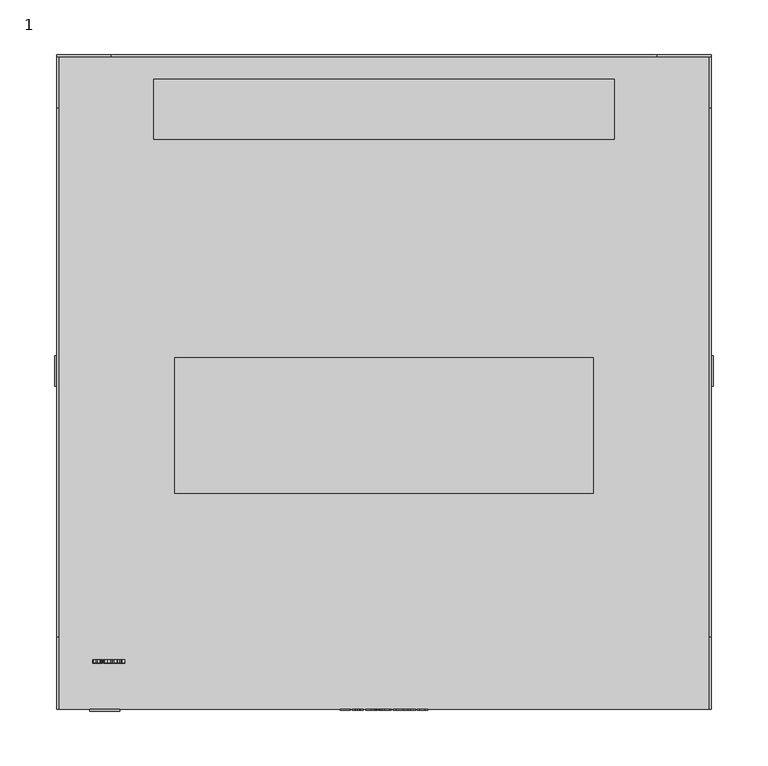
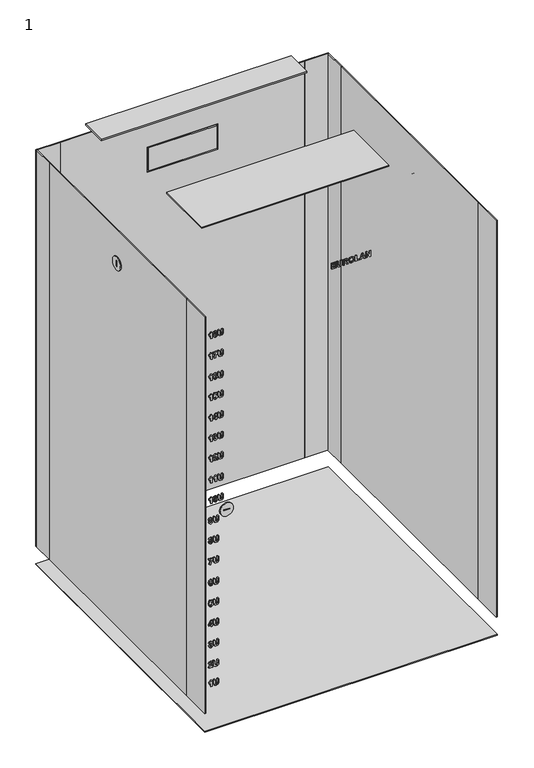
"""IFC4 building model written with IfcOpenShell, lengths in millimetres: proxy geometry, 1 : 18U 600мм металлическая дверь."""

from ifc_helpers import new_model, si_unit, point, frame, frame_2d, origin, origin_with_axes, place, context, project, spatial, polyline, circle_curve, trimmed, segment, composite_curve, outline, extrude, source, transform, mapped, element, save


def proxy_1_363f3566(model_context):
    return source(origin(), model_context, "Body", "SweptSolid", [
        extrude(outline(polyline([(914.0, -40.3245382), (914.0, -30.9964522), (916.1376864, -30.9964522), (916.1376864, -37.9925167), (919.2470483, -37.9925167), (919.2470483, -31.5794576), (921.3847347, -31.5794576), (921.3847347, -37.9925167), (924.1054264, -37.9925167), (924.1054264, -31.1907874), (926.2431128, -31.1907874), (926.2431128, -40.3245382), (914.0, -40.3245382)])), frame((0.0, -301.0, 0.0), z_axis=(0.0, 1.0, 0.0), x_axis=(0.0, 0.0, 1.0)), (0.0, 0.0, 1.0), 1.0),
        extrude(outline(polyline([(926.2431128, -29.053101), (919.7207402, -29.053101), (916.6174512, -28.8071456), (915.2601418, -28.1026808), (914.2095176, -26.6482039), (913.8056649, -23.9487675), (914.1761162, -21.5575346), (915.173602, -20.0954664), (916.7085458, -19.3454543), (919.8209443, -19.1420097), (926.2431128, -19.1420097), (926.2431128, -21.4740312), (919.4960402, -21.4740312), (917.4236383, -21.5924541), (916.3714958, -22.2923642), (915.9433512, -24.0216432), (916.3973059, -25.7979877), (917.5982363, -26.6208755), (919.6387551, -26.7210795), (926.2431128, -26.7210795), (926.2431128, -29.053101)])), frame((0.0, -301.0, 0.0), z_axis=(0.0, 1.0, 0.0), x_axis=(0.0, 0.0, 1.0)), (0.0, 0.0, 1.0), 1.0),
        extrude(outline(polyline([(914.0, -16.8099882), (914.0, -14.4779667), (919.0527132, -13.9435451), (918.9251808, -12.6120459), (918.4560437, -11.8164865), (916.7966039, -10.4242575), (914.0, -8.6509495), (914.0, -5.9272213), (916.3745323, -7.424209), (918.3512849, -8.7238252), (919.3715443, -9.9475291), (920.5071902, -7.6625732), (922.7936644, -6.8988969), (924.7339791, -7.4272455), (925.9121358, -8.8361752), (926.2431128, -11.6601074), (926.2431128, -16.8099882), (914.0, -16.8099882)]), holes=[polyline([(921.1903996, -14.4779667), (924.1054264, -14.4779667), (924.1054264, -12.4495939), (924.0659521, -10.5548264), (923.6150339, -9.5770778), (922.6782779, -9.2309184), (921.817434, -9.4935744), (921.3315962, -10.2223312), (921.1903996, -12.5558709), (921.1903996, -14.4779667)])]), frame((0.0, -301.0, 0.0), z_axis=(0.0, 1.0, 0.0), x_axis=(0.0, 0.0, 1.0)), (0.0, 0.0, 1.0), 1.0),
        extrude(outline(polyline([(920.0456442, -4.9555457), (915.4681411, -3.3735363), (913.8056649, 0.8896905), (915.4757323, 5.1225524), (920.106374, 6.7045618), (924.7628257, 5.1104065), (926.4374479, 0.8593256), (925.9546466, -1.7338337), (924.8539203, -3.2869964), (923.1792981, -4.4059416), (920.0456442, -4.9555457)]), holes=[polyline([(920.1306659, -2.6235242), (923.2612832, -1.6579215), (924.2997616, 0.886654), (923.2734292, 3.4190836), (920.1640672, 4.3725403), (916.9985302, 3.3932735), (915.9433512, 0.886654), (917.0061214, -1.6321114), (920.1306659, -2.6235242)])]), frame((0.0, -301.0, 0.0), z_axis=(0.0, 1.0, 0.0), x_axis=(0.0, 0.0, 1.0)), (0.0, 0.0, 1.0), 1.0),
        extrude(outline(polyline([(914.0, 8.647913), (914.0, 17.1986585), (916.1376864, 17.1986585), (916.1376864, 10.9799345), (926.2431128, 10.9799345), (926.2431128, 8.647913), (914.0, 8.647913)])), frame((0.0, -301.0, 0.0), z_axis=(0.0, 1.0, 0.0), x_axis=(0.0, 0.0, 1.0)), (0.0, 0.0, 1.0), 1.0),
        extrude(outline(polyline([(914.0, 29.2474361), (926.2431128, 24.7352175), (926.2431128, 22.2513717), (914.0, 17.7816638), (914.0, 20.2655096), (916.7206917, 21.2128934), (916.7206917, 25.837462), (914.0, 26.7969917), (914.0, 29.2474361)]), holes=[polyline([(918.8583781, 25.0904864), (918.8583781, 21.959869), (923.3280859, 23.51455), (918.8583781, 25.0904864)])]), frame((0.0, -301.0, 0.0), z_axis=(0.0, 1.0, 0.0), x_axis=(0.0, 0.0, 1.0)), (0.0, 0.0, 1.0), 1.0),
        extrude(outline(polyline([(914.0, 30.4134469), (914.0, 32.7454684), (922.1195644, 32.7454684), (914.0, 37.8042546), (914.0, 40.3245382), (926.2431128, 40.3245382), (926.2431128, 37.9925167), (918.002089, 37.9925167), (926.2431128, 32.8578184), (926.2431128, 30.4134469), (914.0, 30.4134469)])), frame((0.0, -301.0, 0.0), z_axis=(0.0, 1.0, 0.0), x_axis=(0.0, 0.0, 1.0)), (0.0, 0.0, 1.0), 1.0),
        extrude(outline(composite_curve([segment(trimmed(circle_curve(frame_2d((9.997621, 829.4611412)), 14.0), [point((-4.002379, 829.4611412))], [point((23.997621, 829.4611412))], False, "CARTESIAN"), True, "CONTINUOUS"), segment(trimmed(circle_curve(frame_2d((9.997621, 829.4611412)), 14.0), [point((23.997621, 829.4611412))], [point((-4.002379, 829.4611412))], False, "CARTESIAN"), True, "CONTINUOUS")], self_intersect=False), holes=[polyline([(11.0, 835.5), (9.0, 835.5), (9.0, 823.5), (11.0, 823.5), (11.0, 835.5)])]), frame((-302.0, 0.0, 0.0), z_axis=(1.0, 0.0, 0.0), x_axis=(0.0, 1.0, 0.0)), (0.0, 0.0, 1.0), 2.0),
        extrude(outline(composite_curve([segment(trimmed(circle_curve(frame_2d((9.997621, 829.4611412)), 14.0), [point((-4.002379, 829.4611412))], [point((23.997621, 829.4611412))], False, "CARTESIAN"), True, "CONTINUOUS"), segment(trimmed(circle_curve(frame_2d((9.997621, 829.4611412)), 14.0), [point((23.997621, 829.4611412))], [point((-4.002379, 829.4611412))], False, "CARTESIAN"), True, "CONTINUOUS")], self_intersect=False), holes=[polyline([(11.0, 835.5), (9.0, 835.5), (9.0, 823.5), (11.0, 823.5), (11.0, 835.5)])]), frame((300.0, 0.0, 0.0), z_axis=(1.0, 0.0, 0.0), x_axis=(0.0, 1.0, 0.0)), (0.0, 0.0, 1.0), 2.0),
        extrude(outline(composite_curve([segment(trimmed(circle_curve(frame_2d((469.0, -256.0)), 13.7647373), [point((469.0, -242.2352627))], [point((469.0, -269.7647373))], False, "CARTESIAN"), True, "CONTINUOUS"), segment(trimmed(circle_curve(frame_2d((469.0, -256.0)), 13.7647373), [point((469.0, -269.7647373))], [point((469.0, -242.2352627))], False, "CARTESIAN"), True, "CONTINUOUS")], self_intersect=False), holes=[polyline([(470.0, -250.0), (468.0, -250.0), (468.0, -262.0), (470.0, -262.0), (470.0, -250.0)])]), frame((0.0, -302.0, 0.0), z_axis=(0.0, 1.0, 0.0), x_axis=(0.0, 0.0, 1.0)), (0.0, 0.0, 1.0), 2.0),
        extrude(outline(polyline([(300.0, 300.0), (300.0, -300.0), (-300.0, -300.0), (-300.0, 300.0), (300.0, 300.0)])), origin_with_axes(), (0.0, 0.0, 1.0), 2.0),
        extrude(outline(polyline([(211.0, 277.5), (211.0, 222.5), (-211.0, 222.5), (-211.0, 277.5), (211.0, 277.5)])), frame((0.0, 0.0, 934.9795778), z_axis=(0.0, 0.0, 1.0), x_axis=(1.0, 0.0, 0.0)), (0.0, 0.0, 1.0), 3.0204222),
        extrude(outline(polyline([(192.0, 22.0), (192.0, -102.0), (-192.0, -102.0), (-192.0, 22.0), (192.0, 22.0)])), frame((0.0, 0.0, 934.9795778), z_axis=(0.0, 0.0, 1.0), x_axis=(1.0, 0.0, 0.0)), (0.0, 0.0, 1.0), 3.0204222),
        extrude(outline(polyline([(-69.5, 300.0), (69.5, 300.0), (69.5, 298.0), (-69.5, 298.0), (-69.5, 300.0)])), frame((0.0, 0.0, 775.0), z_axis=(0.0, 0.0, 1.0), x_axis=(1.0, 0.0, 0.0)), (0.0, 0.0, 1.0), 49.0),
        extrude(outline(polyline([(900.0, -250.0), (40.0, -250.0), (40.0, 250.0), (900.0, 250.0), (900.0, -250.0)]), holes=[polyline([(827.0, -72.5), (827.0, 72.5), (772.0, 72.5), (772.0, -72.5), (827.0, -72.5)])]), frame((0.0, 298.0, 0.0), z_axis=(0.0, 1.0, 0.0), x_axis=(0.0, 0.0, 1.0)), (0.0, 0.0, 1.0), 2.0),
        extrude(outline(polyline([(-300.0, 300.0), (-250.0, 300.0), (-250.0, 298.0), (-300.0, 298.0), (-300.0, 300.0)])), frame((0.0, 0.0, 40.0), z_axis=(0.0, 0.0, 1.0), x_axis=(1.0, 0.0, 0.0)), (0.0, 0.0, 1.0), 860.0),
        extrude(outline(polyline([(250.0, 300.0), (300.0, 300.0), (300.0, 298.0), (250.0, 298.0), (250.0, 300.0)])), frame((0.0, 0.0, 40.0), z_axis=(0.0, 0.0, 1.0), x_axis=(1.0, 0.0, 0.0)), (0.0, 0.0, 1.0), 860.0),
        extrude(outline(polyline([(-298.0, 250.8155315), (-298.0, -233.7095641), (-300.0, -233.7095641), (-300.0, 250.8155315), (-298.0, 250.8155315)])), frame((0.0, 0.0, 40.0), z_axis=(0.0, 0.0, 1.0), x_axis=(1.0, 0.0, 0.0)), (0.0, 0.0, 1.0), 860.0),
        extrude(outline(polyline([(-298.0, -233.7095641), (-298.0, -300.0), (-300.0, -300.0), (-300.0, -233.7095641), (-298.0, -233.7095641)])), frame((0.0, 0.0, 40.0), z_axis=(0.0, 0.0, 1.0), x_axis=(1.0, 0.0, 0.0)), (0.0, 0.0, 1.0), 860.0),
        extrude(outline(polyline([(-298.0, 300.0), (-298.0, 250.8155315), (-300.0, 250.8155315), (-300.0, 300.0), (-298.0, 300.0)])), frame((0.0, 0.0, 40.0), z_axis=(0.0, 0.0, 1.0), x_axis=(1.0, 0.0, 0.0)), (0.0, 0.0, 1.0), 860.0),
        extrude(outline(polyline([(300.0, 250.8155315), (300.0, -233.7095641), (298.0, -233.7095641), (298.0, 250.8155315), (300.0, 250.8155315)])), frame((0.0, 0.0, 40.0), z_axis=(0.0, 0.0, 1.0), x_axis=(1.0, 0.0, 0.0)), (0.0, 0.0, 1.0), 860.0),
        extrude(outline(polyline([(300.0, 300.0), (300.0, 250.8155315), (298.0, 250.8155315), (298.0, 300.0), (300.0, 300.0)])), frame((0.0, 0.0, 40.0), z_axis=(0.0, 0.0, 1.0), x_axis=(1.0, 0.0, 0.0)), (0.0, 0.0, 1.0), 860.0),
        extrude(outline(polyline([(300.0, -233.7095641), (300.0, -300.0), (298.0, -300.0), (298.0, -233.7095641), (300.0, -233.7095641)])), frame((0.0, 0.0, 40.0), z_axis=(0.0, 0.0, 1.0), x_axis=(1.0, 0.0, 0.0)), (0.0, 0.0, 1.0), 860.0),
        extrude(outline(polyline([(814.9283299, -260.6030776), (827.1714427, -260.6030776), (827.1714427, -262.4614073), (825.2053178, -263.9037383), (824.0620807, -265.850126), (821.7300592, -265.850126), (823.6794834, -262.9350991), (814.9283299, -262.9350991), (814.9283299, -260.6030776)])), frame((0.0, -257.6777479, 0.0), z_axis=(0.0, 1.0, 0.0), x_axis=(0.0, 0.0, 1.0)), (0.0, 0.0, 1.0), 3.0),
        extrude(outline(polyline([(821.4962498, -255.0584536), (820.2254803, -256.6116164), (818.4172527, -257.1050454), (815.6024299, -255.8388306), (814.7339948, -253.1545767), (815.784619, -250.3761917), (818.5174567, -249.3316405), (820.3120201, -249.8584708), (821.4962498, -251.3964511), (822.508918, -250.0163681), (824.0226064, -249.5259756), (826.280234, -250.4946147), (827.1714427, -253.2183429), (826.280234, -255.9496624), (824.0226064, -256.9107103), (822.5499105, -256.4704198), (821.4962498, -255.0584536)]), holes=[polyline([(823.8798915, -254.5786888), (825.000355, -254.205201), (825.4224266, -253.2031605), (825.0033915, -252.2269302), (823.889001, -251.8579971), (822.7320997, -252.2314849), (822.3130646, -253.2274524), (822.727545, -254.2097557), (823.8798915, -254.5786888)]), polyline([(818.6146243, -254.7730239), (819.94916, -254.3889084), (820.5640485, -253.2213794), (820.0220357, -252.1039525), (818.5872959, -251.6636619), (817.0250237, -252.0963612), (816.4830109, -253.1910146), (817.0462791, -254.3205875), (818.6146243, -254.7730239)])]), frame((0.0, -257.6777479, 0.0), z_axis=(0.0, 1.0, 0.0), x_axis=(0.0, 0.0, 1.0)), (0.0, 0.0, 1.0), 3.0),
        extrude(outline(polyline([(827.1714427, -247.3882892), (820.6490701, -247.3882892), (817.5457811, -247.1423338), (816.1884717, -246.437869), (815.1378475, -244.9833921), (814.7339948, -242.2839557), (815.1044461, -239.8927228), (816.1019319, -238.4306546), (817.6368757, -237.6806425), (820.7492742, -237.4771979), (827.1714427, -237.4771979), (827.1714427, -239.8092194), (820.4243701, -239.8092194), (818.3519682, -239.9276424), (817.2998257, -240.6275524), (816.8716811, -242.3568314), (817.3256358, -244.1331759), (818.5265662, -244.9560637), (820.567085, -245.0562677), (827.1714427, -245.0562677), (827.1714427, -247.3882892)])), frame((0.0, -257.6777479, 0.0), z_axis=(0.0, 1.0, 0.0), x_axis=(0.0, 0.0, 1.0)), (0.0, 0.0, 1.0), 3.0),
        extrude(outline(polyline([(769.9283299, -260.6030776), (782.1714427, -260.6030776), (782.1714427, -262.4614073), (780.2053178, -263.9037383), (779.0620807, -265.850126), (776.7300592, -265.850126), (778.6794834, -262.9350991), (769.9283299, -262.9350991), (769.9283299, -260.6030776)])), frame((0.0, -257.6777479, 0.0), z_axis=(0.0, 1.0, 0.0), x_axis=(0.0, 0.0, 1.0)), (0.0, 0.0, 1.0), 3.0),
        extrude(outline(polyline([(779.6450861, -257.1050454), (779.6450861, -251.9976754), (775.0129262, -254.6804111), (769.9283299, -255.7446995), (769.9283299, -253.4126781), (773.5812229, -252.8873659), (777.440597, -251.3342032), (780.2280915, -249.3316405), (781.9771076, -249.3316405), (781.9771076, -257.1050454), (779.6450861, -257.1050454)])), frame((0.0, -257.6777479, 0.0), z_axis=(0.0, 1.0, 0.0), x_axis=(0.0, 0.0, 1.0)), (0.0, 0.0, 1.0), 3.0),
        extrude(outline(polyline([(782.1714427, -247.3882892), (775.6490701, -247.3882892), (772.5457811, -247.1423338), (771.1884717, -246.437869), (770.1378475, -244.9833921), (769.7339948, -242.2839557), (770.1044461, -239.8927228), (771.1019319, -238.4306546), (772.6368757, -237.6806425), (775.7492742, -237.4771979), (782.1714427, -237.4771979), (782.1714427, -239.8092194), (775.4243701, -239.8092194), (773.3519682, -239.9276424), (772.2998257, -240.6275524), (771.8716811, -242.3568314), (772.3256358, -244.1331759), (773.5265662, -244.9560637), (775.567085, -245.0562677), (782.1714427, -245.0562677), (782.1714427, -247.3882892)])), frame((0.0, -257.6777479, 0.0), z_axis=(0.0, 1.0, 0.0), x_axis=(0.0, 0.0, 1.0)), (0.0, 0.0, 1.0), 3.0),
        extrude(outline(polyline([(723.5967514, -260.6030776), (735.8398642, -260.6030776), (735.8398642, -262.4614073), (733.8737393, -263.9037383), (732.7305022, -265.850126), (730.3984808, -265.850126), (732.347905, -262.9350991), (723.5967514, -262.9350991), (723.5967514, -260.6030776)])), frame((0.0, -257.6777479, 0.0), z_axis=(0.0, 1.0, 0.0), x_axis=(0.0, 0.0, 1.0)), (0.0, 0.0, 1.0), 3.0),
        extrude(outline(polyline([(732.5908239, -249.5259756), (735.007867, -250.6373296), (735.8398642, -252.8387821), (734.3610954, -255.9192975), (729.5330822, -257.1050454), (724.8356378, -255.9693995), (723.4024163, -253.0725916), (724.512252, -250.3792282), (727.4561255, -249.3316405), (730.2770213, -250.3564546), (731.3701564, -252.8205632), (730.3468605, -254.9521766), (733.0569245, -254.3357699), (733.7021779, -253.1393943), (733.3696826, -252.2709592), (732.341832, -251.8579971), (732.5908239, -249.5259756)]), holes=[polyline([(727.5077458, -254.7730239), (728.795216, -254.3251422), (729.23247, -253.2304889), (728.7754788, -252.1115437), (727.3346661, -251.6636619), (725.9591378, -252.0796606), (725.5401027, -253.1181389), (726.0517506, -254.2689672), (727.5077458, -254.7730239)])]), frame((0.0, -257.6777479, 0.0), z_axis=(0.0, 1.0, 0.0), x_axis=(0.0, 0.0, 1.0)), (0.0, 0.0, 1.0), 3.0),
        extrude(outline(polyline([(735.8398642, -247.3882892), (729.3174916, -247.3882892), (726.2142026, -247.1423338), (724.8568932, -246.437869), (723.806269, -244.9833921), (723.4024163, -242.2839557), (723.7728676, -239.8927228), (724.7703534, -238.4306546), (726.3052972, -237.6806425), (729.4176957, -237.4771979), (735.8398642, -237.4771979), (735.8398642, -239.8092194), (729.0927916, -239.8092194), (727.0203897, -239.9276424), (725.9682472, -240.6275524), (725.5401027, -242.3568314), (725.9940574, -244.1331759), (727.1949877, -244.9560637), (729.2355065, -245.0562677), (735.8398642, -245.0562677), (735.8398642, -247.3882892)])), frame((0.0, -257.6777479, 0.0), z_axis=(0.0, 1.0, 0.0), x_axis=(0.0, 0.0, 1.0)), (0.0, 0.0, 1.0), 3.0),
        extrude(outline(polyline([(680.748317, -260.6030776), (692.9914298, -260.6030776), (692.9914298, -262.4614073), (691.0253049, -263.9037383), (689.8820678, -265.850126), (687.5500463, -265.850126), (689.4994705, -262.9350991), (680.748317, -262.9350991), (680.748317, -260.6030776)])), frame((0.0, -257.6777479, 0.0), z_axis=(0.0, 1.0, 0.0), x_axis=(0.0, 0.0, 1.0)), (0.0, 0.0, 1.0), 3.0),
        extrude(outline(polyline([(684.1947289, -257.1050454), (681.5408399, -255.8676772), (680.5539818, -253.194051), (682.1268817, -249.984485), (684.7473694, -249.1373053), (687.6122943, -250.1545282), (688.716057, -252.6323011), (688.2393287, -254.1353618), (690.4650731, -253.6647064), (690.4650731, -249.7203107), (692.7970946, -249.7203107), (692.7970946, -255.5503644), (685.9073072, -256.9107103), (685.606695, -254.8884104), (686.5783707, -253.1819051), (686.1077153, -251.9445369), (684.6957492, -251.4693268), (683.1911702, -251.9809748), (682.6916682, -253.2304889), (683.1623236, -254.3722077), (684.4406843, -254.967359), (684.1947289, -257.1050454)])), frame((0.0, -257.6777479, 0.0), z_axis=(0.0, 1.0, 0.0), x_axis=(0.0, 0.0, 1.0)), (0.0, 0.0, 1.0), 3.0),
        extrude(outline(polyline([(692.9914298, -247.3882892), (686.4690572, -247.3882892), (683.3657682, -247.1423338), (682.0084588, -246.437869), (680.9578345, -244.9833921), (680.5539818, -242.2839557), (680.9244332, -239.8927228), (681.9219189, -238.4306546), (683.4568627, -237.6806425), (686.5692612, -237.4771979), (692.9914298, -237.4771979), (692.9914298, -239.8092194), (686.2443572, -239.8092194), (684.1719553, -239.9276424), (683.1198128, -240.6275524), (682.6916682, -242.3568314), (683.1456229, -244.1331759), (684.3465532, -244.9560637), (686.387072, -245.0562677), (692.9914298, -245.0562677), (692.9914298, -247.3882892)])), frame((0.0, -257.6777479, 0.0), z_axis=(0.0, 1.0, 0.0), x_axis=(0.0, 0.0, 1.0)), (0.0, 0.0, 1.0), 3.0),
        extrude(outline(polyline([(636.0351924, -260.6030776), (648.2783052, -260.6030776), (648.2783052, -262.4614073), (646.3121803, -263.9037383), (645.1689432, -265.850126), (642.8369217, -265.850126), (644.7863459, -262.9350991), (636.0351924, -262.9350991), (636.0351924, -260.6030776)])), frame((0.0, -257.6777479, 0.0), z_axis=(0.0, 1.0, 0.0), x_axis=(0.0, 0.0, 1.0)), (0.0, 0.0, 1.0), 3.0),
        extrude(outline(polyline([(636.0351924, -252.8296727), (636.0351924, -250.4976512), (638.561549, -250.4976512), (638.561549, -248.9429702), (640.5049002, -248.9429702), (640.5049002, -250.4976512), (648.08397, -250.4976512), (648.08397, -252.5199511), (640.4957907, -257.4937157), (638.561549, -257.4937157), (638.561549, -252.8296727), (636.0351924, -252.8296727)]), holes=[polyline([(640.5049002, -252.8296727), (640.5049002, -255.4349779), (644.4826973, -252.8296727), (640.5049002, -252.8296727)])]), frame((0.0, -257.6777479, 0.0), z_axis=(0.0, 1.0, 0.0), x_axis=(0.0, 0.0, 1.0)), (0.0, 0.0, 1.0), 3.0),
        extrude(outline(polyline([(648.2783052, -247.3882892), (641.7559326, -247.3882892), (638.6526436, -247.1423338), (637.2953342, -246.437869), (636.2447099, -244.9833921), (635.8408572, -242.2839557), (636.2113086, -239.8927228), (637.2087943, -238.4306546), (638.7437381, -237.6806425), (641.8561366, -237.4771979), (648.2783052, -237.4771979), (648.2783052, -239.8092194), (641.5312326, -239.8092194), (639.4588307, -239.9276424), (638.4066882, -240.6275524), (637.9785436, -242.3568314), (638.4324983, -244.1331759), (639.6334286, -244.9560637), (641.6739474, -245.0562677), (648.2783052, -245.0562677), (648.2783052, -247.3882892)])), frame((0.0, -257.6777479, 0.0), z_axis=(0.0, 1.0, 0.0), x_axis=(0.0, 0.0, 1.0)), (0.0, 0.0, 1.0), 3.0),
        extrude(outline(polyline([(591.485825, -260.6030776), (603.7289378, -260.6030776), (603.7289378, -262.4614073), (601.762813, -263.9037383), (600.6195759, -265.850126), (598.2875544, -265.850126), (600.2369786, -262.9350991), (591.485825, -262.9350991), (591.485825, -260.6030776)])), frame((0.0, -257.6777479, 0.0), z_axis=(0.0, 1.0, 0.0), x_axis=(0.0, 0.0, 1.0)), (0.0, 0.0, 1.0), 3.0),
        extrude(outline(polyline([(594.9079451, -257.1050454), (592.2920122, -255.8919691), (591.2914899, -253.2578173), (592.4165081, -250.4566586), (595.1356816, -249.3316405), (597.0137484, -249.9662661), (598.0142706, -251.6606255), (600.5861745, -249.9146458), (602.6266933, -250.7284242), (603.7289378, -253.3458754), (603.3311581, -255.0690813), (602.2395413, -256.2684934), (600.3857664, -256.9107103), (600.0365705, -254.5786888), (601.19499, -254.1611719), (601.5912515, -253.3306929), (601.2496468, -252.5427247), (600.3341462, -252.2466673), (599.253157, -252.6429288), (598.8705597, -253.7922388), (596.9484639, -253.9956834), (597.1215436, -253.0695551), (596.6387423, -252.0720693), (595.3300167, -251.6636619), (593.9438607, -252.1100254), (593.4291763, -253.21227), (593.8785763, -254.2477118), (595.1781924, -254.7730239), (594.9079451, -257.1050454)])), frame((0.0, -257.6777479, 0.0), z_axis=(0.0, 1.0, 0.0), x_axis=(0.0, 0.0, 1.0)), (0.0, 0.0, 1.0), 3.0),
        extrude(outline(polyline([(603.7289378, -247.3882892), (597.2065653, -247.3882892), (594.1032762, -247.1423338), (592.7459669, -246.437869), (591.6953426, -244.9833921), (591.2914899, -242.2839557), (591.6619413, -239.8927228), (592.659427, -238.4306546), (594.1943708, -237.6806425), (597.3067693, -237.4771979), (603.7289378, -237.4771979), (603.7289378, -239.8092194), (596.9818653, -239.8092194), (594.9094634, -239.9276424), (593.8573209, -240.6275524), (593.4291763, -242.3568314), (593.883131, -244.1331759), (595.0840613, -244.9560637), (597.1245801, -245.0562677), (603.7289378, -245.0562677), (603.7289378, -247.3882892)])), frame((0.0, -257.6777479, 0.0), z_axis=(0.0, 1.0, 0.0), x_axis=(0.0, 0.0, 1.0)), (0.0, 0.0, 1.0), 3.0),
        extrude(outline(polyline([(547.6333267, -260.6030776), (559.8764395, -260.6030776), (559.8764395, -262.4614073), (557.9103146, -263.9037383), (556.7670775, -265.850126), (554.435056, -265.850126), (556.3844802, -262.9350991), (547.6333267, -262.9350991), (547.6333267, -260.6030776)])), frame((0.0, -257.6777479, 0.0), z_axis=(0.0, 1.0, 0.0), x_axis=(0.0, 0.0, 1.0)), (0.0, 0.0, 1.0), 3.0),
        extrude(outline(polyline([(549.9653481, -249.3316405), (550.6030103, -253.2395983), (551.9299548, -251.9080991), (553.4603439, -250.4581769), (554.9937695, -249.6018877), (556.5363045, -249.3316405), (558.918428, -250.3184985), (559.8764395, -253.0331173), (559.0216686, -255.6596779), (556.202291, -256.9107103), (555.989737, -254.5786888), (557.3333822, -254.1292888), (557.7387531, -253.0847375), (557.3273092, -252.0417045), (556.1476343, -251.6636619), (554.7447776, -252.1130619), (552.7892804, -253.9167348), (549.9213191, -256.3611063), (547.6333267, -257.1050454), (547.6333267, -249.3316405), (549.9653481, -249.3316405)])), frame((0.0, -257.6777479, 0.0), z_axis=(0.0, 1.0, 0.0), x_axis=(0.0, 0.0, 1.0)), (0.0, 0.0, 1.0), 3.0),
        extrude(outline(polyline([(559.8764395, -247.3882892), (553.3540669, -247.3882892), (550.2507779, -247.1423338), (548.8934685, -246.437869), (547.8428442, -244.9833921), (547.4389915, -242.2839557), (547.8094429, -239.8927228), (548.8069286, -238.4306546), (550.3418725, -237.6806425), (553.4542709, -237.4771979), (559.8764395, -237.4771979), (559.8764395, -239.8092194), (553.1293669, -239.8092194), (551.056965, -239.9276424), (550.0048225, -240.6275524), (549.5766779, -242.3568314), (550.0306326, -244.1331759), (551.2315629, -244.9560637), (553.2720817, -245.0562677), (559.8764395, -245.0562677), (559.8764395, -247.3882892)])), frame((0.0, -257.6777479, 0.0), z_axis=(0.0, 1.0, 0.0), x_axis=(0.0, 0.0, 1.0)), (0.0, 0.0, 1.0), 3.0),
        extrude(outline(polyline([(501.1786301, -260.6030776), (513.4217429, -260.6030776), (513.4217429, -262.4614073), (511.455618, -263.9037383), (510.3123809, -265.850126), (507.9803594, -265.850126), (509.9297836, -262.9350991), (501.1786301, -262.9350991), (501.1786301, -260.6030776)])), frame((0.0, -257.6777479, 0.0), z_axis=(0.0, 1.0, 0.0), x_axis=(0.0, 0.0, 1.0)), (0.0, 0.0, 1.0), 3.0),
        extrude(outline(polyline([(501.1786301, -251.2749917), (513.4217429, -251.2749917), (513.4217429, -253.1333213), (511.455618, -254.5756523), (510.3123809, -256.52204), (507.9803594, -256.52204), (509.9297836, -253.6070132), (501.1786301, -253.6070132), (501.1786301, -251.2749917)])), frame((0.0, -257.6777479, 0.0), z_axis=(0.0, 1.0, 0.0), x_axis=(0.0, 0.0, 1.0)), (0.0, 0.0, 1.0), 3.0),
        extrude(outline(polyline([(513.4217429, -247.3882892), (506.8993703, -247.3882892), (503.7960813, -247.1423338), (502.4387719, -246.437869), (501.3881476, -244.9833921), (500.9842949, -242.2839557), (501.3547463, -239.8927228), (502.352232, -238.4306546), (503.8871758, -237.6806425), (506.9995743, -237.4771979), (513.4217429, -237.4771979), (513.4217429, -239.8092194), (506.6746703, -239.8092194), (504.6022684, -239.9276424), (503.5501259, -240.6275524), (503.1219813, -242.3568314), (503.575936, -244.1331759), (504.7768663, -244.9560637), (506.8173851, -245.0562677), (513.4217429, -245.0562677), (513.4217429, -247.3882892)])), frame((0.0, -257.6777479, 0.0), z_axis=(0.0, 1.0, 0.0), x_axis=(0.0, 0.0, 1.0)), (0.0, 0.0, 1.0), 3.0),
        extrude(outline(polyline([(457.3261317, -260.6030776), (469.5692445, -260.6030776), (469.5692445, -262.4614073), (467.6031196, -263.9037383), (466.4598825, -265.850126), (464.127861, -265.850126), (466.0772852, -262.9350991), (457.3261317, -262.9350991), (457.3261317, -260.6030776)])), frame((0.0, -257.6777479, 0.0), z_axis=(0.0, 1.0, 0.0), x_axis=(0.0, 0.0, 1.0)), (0.0, 0.0, 1.0), 3.0),
        extrude(outline(polyline([(469.5692445, -253.2183429), (468.3242851, -255.9299252), (463.3717759, -257.1050454), (458.4982154, -256.034684), (457.1317966, -253.2183429), (458.3767559, -250.5067607), (463.347484, -249.3316405), (468.3060662, -250.5006877), (469.5692445, -253.2183429)]), holes=[polyline([(467.4315581, -253.2183429), (467.174975, -252.4455572), (466.1531974, -251.8853254), (463.347484, -251.6636619), (460.4476396, -251.9126538), (459.526066, -252.4410024), (459.2694829, -253.2183429), (459.5230295, -253.9911287), (460.5402524, -254.5513604), (463.347484, -254.7730239), (466.2534014, -254.524032), (467.174975, -253.9956834), (467.4315581, -253.2183429)])]), frame((0.0, -257.6777479, 0.0), z_axis=(0.0, 1.0, 0.0), x_axis=(0.0, 0.0, 1.0)), (0.0, 0.0, 1.0), 3.0),
        extrude(outline(polyline([(469.5692445, -247.3882892), (463.0468719, -247.3882892), (459.9435829, -247.1423338), (458.5862735, -246.437869), (457.5356492, -244.9833921), (457.1317966, -242.2839557), (457.5022479, -239.8927228), (458.4997336, -238.4306546), (460.0346775, -237.6806425), (463.1470759, -237.4771979), (469.5692445, -237.4771979), (469.5692445, -239.8092194), (462.8221719, -239.8092194), (460.74977, -239.9276424), (459.6976275, -240.6275524), (459.2694829, -242.3568314), (459.7234376, -244.1331759), (460.924368, -244.9560637), (462.9648868, -245.0562677), (469.5692445, -245.0562677), (469.5692445, -247.3882892)])), frame((0.0, -257.6777479, 0.0), z_axis=(0.0, 1.0, 0.0), x_axis=(0.0, 0.0, 1.0)), (0.0, 0.0, 1.0), 3.0),
        extrude(outline(polyline([(416.2414631, -266.2387962), (413.8062011, -265.1547706), (412.9924228, -262.9381356), (414.4696734, -259.8469925), (419.2870589, -258.6597264), (423.9981674, -259.7953723), (425.4298707, -262.7012897), (424.3169985, -265.3809888), (421.3852709, -266.4331314), (418.550711, -265.4083172), (417.4621306, -262.971537), (418.476317, -260.8065222), (415.7753625, -261.4290019), (415.1301091, -262.6071586), (415.4641226, -263.4922944), (416.490455, -263.9067747), (416.2414631, -266.2387962)]), holes=[polyline([(421.3306142, -260.9917479), (420.0385892, -261.4365931), (419.599817, -262.5312464), (420.0568082, -263.6517099), (421.4885115, -264.1011099), (422.8701127, -263.6881477), (423.2921843, -262.6496694), (422.7774999, -261.4927681), (421.3306142, -260.9917479)])]), frame((0.0, -257.6777479, 0.0), z_axis=(0.0, 1.0, 0.0), x_axis=(0.0, 0.0, 1.0)), (0.0, 0.0, 1.0), 3.0),
        extrude(outline(polyline([(425.4298707, -256.7163752), (418.9074981, -256.7163752), (415.8042091, -256.4704198), (414.4468997, -255.7659549), (413.3962754, -254.311478), (412.9924228, -251.6120417), (413.3628741, -249.2208087), (414.3603599, -247.7587405), (415.8953037, -247.0087284), (419.0077021, -246.8052838), (425.4298707, -246.8052838), (425.4298707, -249.1373053), (418.6827981, -249.1373053), (416.6103962, -249.2557283), (415.5582537, -249.9556384), (415.1301091, -251.6849173), (415.5840638, -253.4612618), (416.7849942, -254.2841496), (418.825513, -254.3843537), (425.4298707, -254.3843537), (425.4298707, -256.7163752)])), frame((0.0, -257.6777479, 0.0), z_axis=(0.0, 1.0, 0.0), x_axis=(0.0, 0.0, 1.0)), (0.0, 0.0, 1.0), 3.0),
        extrude(outline(polyline([(376.4962498, -264.3865396), (375.2254803, -265.9397023), (373.4172527, -266.4331314), (370.6024299, -265.1669166), (369.7339948, -262.4826627), (370.784619, -259.7042777), (373.5174567, -258.6597264), (375.3120201, -259.1865568), (376.4962498, -260.7245371), (377.508918, -259.3444541), (379.0226064, -258.8540615), (381.280234, -259.8227007), (382.1714427, -262.5464289), (381.280234, -265.2777483), (379.0226064, -266.2387962), (377.5499105, -265.7985057), (376.4962498, -264.3865396)]), holes=[polyline([(378.8798915, -263.9067747), (380.000355, -263.5332869), (380.4224266, -262.5312464), (380.0033915, -261.5550161), (378.889001, -261.186083), (377.7320997, -261.5595708), (377.3130646, -262.5555383), (377.727545, -263.5378417), (378.8798915, -263.9067747)]), polyline([(373.6146243, -264.1011099), (374.94916, -263.7169943), (375.5640485, -262.5494654), (375.0220357, -261.4320384), (373.5872959, -260.9917479), (372.0250237, -261.4244472), (371.4830109, -262.5191005), (372.0462791, -263.6486734), (373.6146243, -264.1011099)])]), frame((0.0, -257.6777479, 0.0), z_axis=(0.0, 1.0, 0.0), x_axis=(0.0, 0.0, 1.0)), (0.0, 0.0, 1.0), 3.0),
        extrude(outline(polyline([(382.1714427, -256.7163752), (375.6490701, -256.7163752), (372.5457811, -256.4704198), (371.1884717, -255.7659549), (370.1378475, -254.311478), (369.7339948, -251.6120417), (370.1044461, -249.2208087), (371.1019319, -247.7587405), (372.6368757, -247.0087284), (375.7492742, -246.8052838), (382.1714427, -246.8052838), (382.1714427, -249.1373053), (375.4243701, -249.1373053), (373.3519682, -249.2557283), (372.2998257, -249.9556384), (371.8716811, -251.6849173), (372.3256358, -253.4612618), (373.5265662, -254.2841496), (375.567085, -254.3843537), (382.1714427, -254.3843537), (382.1714427, -256.7163752)])), frame((0.0, -257.6777479, 0.0), z_axis=(0.0, 1.0, 0.0), x_axis=(0.0, 0.0, 1.0)), (0.0, 0.0, 1.0), 3.0),
        extrude(outline(polyline([(334.6450861, -266.4331314), (334.6450861, -261.3257614), (330.0129262, -264.008497), (324.9283299, -265.0727855), (324.9283299, -262.740764), (328.5812229, -262.2154519), (332.440597, -260.6622891), (335.2280915, -258.6597264), (336.9771076, -258.6597264), (336.9771076, -266.4331314), (334.6450861, -266.4331314)])), frame((0.0, -257.6777479, 0.0), z_axis=(0.0, 1.0, 0.0), x_axis=(0.0, 0.0, 1.0)), (0.0, 0.0, 1.0), 3.0),
        extrude(outline(polyline([(337.1714427, -256.7163752), (330.6490701, -256.7163752), (327.5457811, -256.4704198), (326.1884717, -255.7659549), (325.1378475, -254.311478), (324.7339948, -251.6120417), (325.1044461, -249.2208087), (326.1019319, -247.7587405), (327.6368757, -247.0087284), (330.7492742, -246.8052838), (337.1714427, -246.8052838), (337.1714427, -249.1373053), (330.4243701, -249.1373053), (328.3519682, -249.2557283), (327.2998257, -249.9556384), (326.8716811, -251.6849173), (327.3256358, -253.4612618), (328.5265662, -254.2841496), (330.567085, -254.3843537), (337.1714427, -254.3843537), (337.1714427, -256.7163752)])), frame((0.0, -257.6777479, 0.0), z_axis=(0.0, 1.0, 0.0), x_axis=(0.0, 0.0, 1.0)), (0.0, 0.0, 1.0), 3.0),
        extrude(outline(polyline([(287.6111434, -258.8540615), (290.0281866, -259.9654155), (290.8601838, -262.1668681), (289.381415, -265.2473834), (284.5534017, -266.4331314), (279.8559574, -265.2974855), (278.4227359, -262.4006775), (279.5325716, -259.7073142), (282.4764451, -258.6597264), (285.2973409, -259.6845405), (286.390476, -262.1486492), (285.3671801, -264.2802626), (288.0772441, -263.6638558), (288.7224974, -262.4674802), (288.3900022, -261.5990451), (287.3621516, -261.186083), (287.6111434, -258.8540615)]), holes=[polyline([(282.5280654, -264.1011099), (283.8155356, -263.6532281), (284.2527896, -262.5585748), (283.7957984, -261.4396296), (282.3549856, -260.9917479), (280.9794573, -261.4077465), (280.5604222, -262.4462248), (281.0720702, -263.5970531), (282.5280654, -264.1011099)])]), frame((0.0, -257.6777479, 0.0), z_axis=(0.0, 1.0, 0.0), x_axis=(0.0, 0.0, 1.0)), (0.0, 0.0, 1.0), 3.0),
        extrude(outline(polyline([(290.8601838, -256.7163752), (284.3378112, -256.7163752), (281.2345222, -256.4704198), (279.8772128, -255.7659549), (278.8265886, -254.311478), (278.4227359, -251.6120417), (278.7931872, -249.2208087), (279.790673, -247.7587405), (281.3256168, -247.0087284), (284.4380153, -246.8052838), (290.8601838, -246.8052838), (290.8601838, -249.1373053), (284.1131112, -249.1373053), (282.0407093, -249.2557283), (280.9885668, -249.9556384), (280.5604222, -251.6849173), (281.0143769, -253.4612618), (282.2153073, -254.2841496), (284.2558261, -254.3843537), (290.8601838, -254.3843537), (290.8601838, -256.7163752)])), frame((0.0, -257.6777479, 0.0), z_axis=(0.0, 1.0, 0.0), x_axis=(0.0, 0.0, 1.0)), (0.0, 0.0, 1.0), 3.0),
        extrude(outline(polyline([(237.3503584, -266.4331314), (234.6964693, -265.1957632), (233.7096113, -262.522137), (235.2825112, -259.312571), (237.9029989, -258.4653913), (240.7679237, -259.4826142), (241.8716865, -261.960387), (241.3949581, -263.4634477), (243.6207026, -262.9927924), (243.6207026, -259.0483966), (245.9527241, -259.0483966), (245.9527241, -264.8784504), (239.0629366, -266.2387962), (238.7623245, -264.2164963), (239.7340001, -262.509991), (239.2633447, -261.2726229), (237.8513786, -260.7974128), (236.3467996, -261.3090607), (235.8472976, -262.5585748), (236.317953, -263.7002937), (237.5963138, -264.295445), (237.3503584, -266.4331314)])), frame((0.0, -257.6777479, 0.0), z_axis=(0.0, 1.0, 0.0), x_axis=(0.0, 0.0, 1.0)), (0.0, 0.0, 1.0), 3.0),
        extrude(outline(polyline([(246.1470592, -256.7163752), (239.6246866, -256.7163752), (236.5213976, -256.4704198), (235.1640882, -255.7659549), (234.113464, -254.311478), (233.7096113, -251.6120417), (234.0800626, -249.2208087), (235.0775484, -247.7587405), (236.6124922, -247.0087284), (239.7248907, -246.8052838), (246.1470592, -246.8052838), (246.1470592, -249.1373053), (239.3999866, -249.1373053), (237.3275847, -249.2557283), (236.2754422, -249.9556384), (235.8472976, -251.6849173), (236.3012523, -253.4612618), (237.5021827, -254.2841496), (239.5427015, -254.3843537), (246.1470592, -254.3843537), (246.1470592, -256.7163752)])), frame((0.0, -257.6777479, 0.0), z_axis=(0.0, 1.0, 0.0), x_axis=(0.0, 0.0, 1.0)), (0.0, 0.0, 1.0), 3.0),
        extrude(outline(polyline([(189.9283299, -262.1577586), (189.9283299, -259.8257371), (192.4546865, -259.8257371), (192.4546865, -258.2710562), (194.3980377, -258.2710562), (194.3980377, -259.8257371), (201.9771076, -259.8257371), (201.9771076, -261.848037), (194.3889283, -266.8218016), (192.4546865, -266.8218016), (192.4546865, -262.1577586), (189.9283299, -262.1577586)]), holes=[polyline([(194.3980377, -262.1577586), (194.3980377, -264.7630639), (198.3758348, -262.1577586), (194.3980377, -262.1577586)])]), frame((0.0, -257.6777479, 0.0), z_axis=(0.0, 1.0, 0.0), x_axis=(0.0, 0.0, 1.0)), (0.0, 0.0, 1.0), 3.0),
        extrude(outline(polyline([(202.1714427, -256.7163752), (195.6490701, -256.7163752), (192.5457811, -256.4704198), (191.1884717, -255.7659549), (190.1378475, -254.311478), (189.7339948, -251.6120417), (190.1044461, -249.2208087), (191.1019319, -247.7587405), (192.6368757, -247.0087284), (195.7492742, -246.8052838), (202.1714427, -246.8052838), (202.1714427, -249.1373053), (195.4243701, -249.1373053), (193.3519682, -249.2557283), (192.2998257, -249.9556384), (191.8716811, -251.6849173), (192.3256358, -253.4612618), (193.5265662, -254.2841496), (195.567085, -254.3843537), (202.1714427, -254.3843537), (202.1714427, -256.7163752)])), frame((0.0, -257.6777479, 0.0), z_axis=(0.0, 1.0, 0.0), x_axis=(0.0, 0.0, 1.0)), (0.0, 0.0, 1.0), 3.0),
        extrude(outline(polyline([(148.35045, -266.4331314), (145.734517, -265.2200551), (144.7339948, -262.5859032), (145.859013, -259.7847446), (148.5781864, -258.6597264), (150.4562532, -259.294352), (151.4567755, -260.9887114), (154.0286794, -259.2427318), (156.0691982, -260.0565101), (157.1714427, -262.6739613), (156.773663, -264.3971673), (155.6820462, -265.5965794), (153.8282713, -266.2387962), (153.4790753, -263.9067747), (154.6374949, -263.4892579), (155.0337563, -262.6587789), (154.6921516, -261.8708107), (153.776651, -261.5747533), (152.6956619, -261.9710147), (152.3130646, -263.1203248), (150.3909688, -263.3237694), (150.5640485, -262.397641), (150.0812472, -261.4001553), (148.7725216, -260.9917479), (147.3863656, -261.4381114), (146.8716811, -262.5403559), (147.3210811, -263.5757977), (148.6206973, -264.1011099), (148.35045, -266.4331314)])), frame((0.0, -257.6777479, 0.0), z_axis=(0.0, 1.0, 0.0), x_axis=(0.0, 0.0, 1.0)), (0.0, 0.0, 1.0), 3.0),
        extrude(outline(polyline([(157.1714427, -256.7163752), (150.6490701, -256.7163752), (147.5457811, -256.4704198), (146.1884717, -255.7659549), (145.1378475, -254.311478), (144.7339948, -251.6120417), (145.1044461, -249.2208087), (146.1019319, -247.7587405), (147.6368757, -247.0087284), (150.7492742, -246.8052838), (157.1714427, -246.8052838), (157.1714427, -249.1373053), (150.4243701, -249.1373053), (148.3519682, -249.2557283), (147.2998257, -249.9556384), (146.8716811, -251.6849173), (147.3256358, -253.4612618), (148.5265662, -254.2841496), (150.567085, -254.3843537), (157.1714427, -254.3843537), (157.1714427, -256.7163752)])), frame((0.0, -257.6777479, 0.0), z_axis=(0.0, 1.0, 0.0), x_axis=(0.0, 0.0, 1.0)), (0.0, 0.0, 1.0), 3.0),
        extrude(outline(polyline([(103.3014708, -258.8246798), (103.9391329, -262.7326376), (105.2660774, -261.4011384), (106.7964665, -259.9512162), (108.3298921, -259.094927), (109.8724272, -258.8246798), (112.2545507, -259.8115378), (113.2125621, -262.5261566), (112.3577912, -265.1527172), (109.5384137, -266.4037496), (109.3258596, -264.0717281), (110.6695048, -263.6223281), (111.0748758, -262.5777768), (110.6634319, -261.5347438), (109.4837569, -261.1567012), (108.0809003, -261.6061012), (106.1254031, -263.4097741), (103.2574418, -265.8541456), (100.9694493, -266.5980847), (100.9694493, -258.8246798), (103.3014708, -258.8246798)])), frame((0.0, -257.6777479, 0.0), z_axis=(0.0, 1.0, 0.0), x_axis=(0.0, 0.0, 1.0)), (0.0, 0.0, 1.0), 3.0),
        extrude(outline(polyline([(113.2125621, -256.8813285), (106.6901895, -256.8813285), (103.5869005, -256.6353731), (102.2295911, -255.9309083), (101.1789669, -254.4764314), (100.7751142, -251.776995), (101.1455655, -249.3857621), (102.1430513, -247.9236939), (103.6779951, -247.1736818), (106.7903936, -246.9702372), (113.2125621, -246.9702372), (113.2125621, -249.3022587), (106.4654895, -249.3022587), (104.3930876, -249.4206817), (103.3409451, -250.1205917), (102.9128006, -251.8498707), (103.3667553, -253.6262152), (104.5676856, -254.449103), (106.6082044, -254.549307), (113.2125621, -254.549307), (113.2125621, -256.8813285)])), frame((0.0, -257.6777479, 0.0), z_axis=(0.0, 1.0, 0.0), x_axis=(0.0, 0.0, 1.0)), (0.0, 0.0, 1.0), 3.0),
        extrude(outline(polyline([(59.9283299, -260.6030776), (72.1714427, -260.6030776), (72.1714427, -262.4614073), (70.2053178, -263.9037383), (69.0620807, -265.850126), (66.7300592, -265.850126), (68.6794834, -262.9350991), (59.9283299, -262.9350991), (59.9283299, -260.6030776)])), frame((0.0, -257.6777479, 0.0), z_axis=(0.0, 1.0, 0.0), x_axis=(0.0, 0.0, 1.0)), (0.0, 0.0, 1.0), 3.0),
        extrude(outline(polyline([(72.1714427, -256.7163752), (65.6490701, -256.7163752), (62.5457811, -256.4704198), (61.1884717, -255.7659549), (60.1378475, -254.311478), (59.7339948, -251.6120417), (60.1044461, -249.2208087), (61.1019319, -247.7587405), (62.6368757, -247.0087284), (65.7492742, -246.8052838), (72.1714427, -246.8052838), (72.1714427, -249.1373053), (65.4243701, -249.1373053), (63.3519682, -249.2557283), (62.2998257, -249.9556384), (61.8716811, -251.6849173), (62.3256358, -253.4612618), (63.5265662, -254.2841496), (65.567085, -254.3843537), (72.1714427, -254.3843537), (72.1714427, -256.7163752)])), frame((0.0, -257.6777479, 0.0), z_axis=(0.0, 1.0, 0.0), x_axis=(0.0, 0.0, 1.0)), (0.0, 0.0, 1.0), 3.0),
    ])


if __name__ == "__main__":
    model = new_model("IFC4")
    model_context = context("Model", 3, world=origin())
    ifc_project = project(units=[si_unit("LENGTHUNIT", "METRE", prefix="MILLI")], contexts=[model_context])
    site = spatial("IfcSite", under=ifc_project)
    building = spatial("IfcBuilding", under=site)
    placement = place(None, origin())
    proxy_1_shape = proxy_1_363f3566(model_context)
    element("IfcBuildingElementProxy", 1, Name="1 : 18U 600мм металлическая дверь", ObjectType="1 : 18U 600мм металлическая дверь", at=placement, inside=building, context=model_context, shape_type="MappedRepresentation", body=[
        mapped(proxy_1_shape, transform((0.0, 0.0, 0.0), x_axis=(1.0, 0.0, 0.0), y_axis=(0.0, 1.0, 0.0), z_axis=(0.0, 0.0, 1.0))),
    ])
    save(model, "model.ifc")
